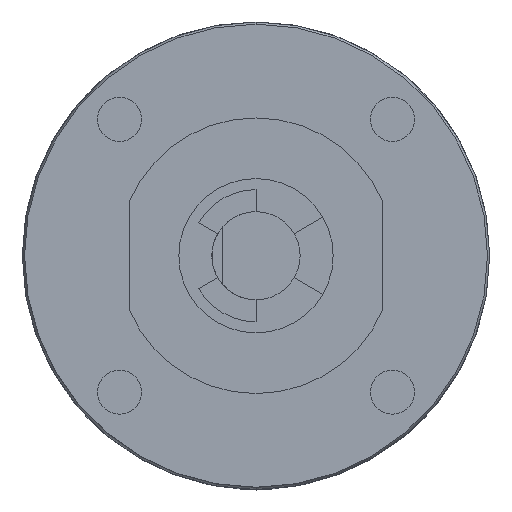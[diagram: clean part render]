
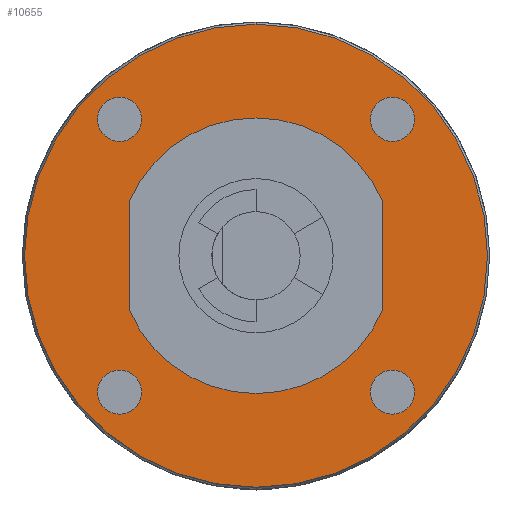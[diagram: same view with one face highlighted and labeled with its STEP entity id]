
A CAD part, front view. The second image highlights one B-rep face of the part: STEP entity #10655.
In plain terms, the highlighted planar face has unit normal (0, -1, 0) as drawn and (0, 1, 0) by its records, which use the part's own axes.
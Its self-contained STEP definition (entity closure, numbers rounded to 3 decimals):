
#9606=CARTESIAN_POINT('',(0.,45.9,0.));
#9607=DIRECTION('',(0.,1.,0.));
#9608=DIRECTION('',(0.,0.,1.));
#9609=AXIS2_PLACEMENT_3D('',#9606,#9607,#9608);
#9611=CARTESIAN_POINT('',(0.,45.9,0.));
#9612=DIRECTION('',(0.,1.,0.));
#9613=DIRECTION('',(0.,0.,-1.));
#9614=AXIS2_PLACEMENT_3D('',#9611,#9612,#9613);
#9616=CARTESIAN_POINT('',(-12.374,45.9,12.374));
#9617=DIRECTION('',(0.,-1.,0.));
#9618=DIRECTION('',(0.,0.,-1.));
#9619=AXIS2_PLACEMENT_3D('',#9616,#9617,#9618);
#9621=CARTESIAN_POINT('',(-12.374,45.9,12.374));
#9622=DIRECTION('',(0.,-1.,0.));
#9623=DIRECTION('',(0.,0.,1.));
#9624=AXIS2_PLACEMENT_3D('',#9621,#9622,#9623);
#9626=CARTESIAN_POINT('',(-12.374,45.9,-12.374));
#9627=DIRECTION('',(0.,-1.,0.));
#9628=DIRECTION('',(0.,0.,-1.));
#9629=AXIS2_PLACEMENT_3D('',#9626,#9627,#9628);
#9631=CARTESIAN_POINT('',(-12.374,45.9,-12.374));
#9632=DIRECTION('',(0.,-1.,0.));
#9633=DIRECTION('',(0.,0.,1.));
#9634=AXIS2_PLACEMENT_3D('',#9631,#9632,#9633);
#9636=CARTESIAN_POINT('',(12.374,45.9,-12.374));
#9637=DIRECTION('',(0.,-1.,0.));
#9638=DIRECTION('',(0.,0.,-1.));
#9639=AXIS2_PLACEMENT_3D('',#9636,#9637,#9638);
#9641=CARTESIAN_POINT('',(12.374,45.9,-12.374));
#9642=DIRECTION('',(0.,-1.,0.));
#9643=DIRECTION('',(0.,0.,1.));
#9644=AXIS2_PLACEMENT_3D('',#9641,#9642,#9643);
#9646=CARTESIAN_POINT('',(12.374,45.9,12.374));
#9647=DIRECTION('',(0.,-1.,0.));
#9648=DIRECTION('',(0.,0.,-1.));
#9649=AXIS2_PLACEMENT_3D('',#9646,#9647,#9648);
#9651=CARTESIAN_POINT('',(12.374,45.9,12.374));
#9652=DIRECTION('',(0.,-1.,0.));
#9653=DIRECTION('',(0.,0.,1.));
#9654=AXIS2_PLACEMENT_3D('',#9651,#9652,#9653);
#9656=DIRECTION('',(0.,0.,1.));
#9657=VECTOR('',#9656,9.798);
#9658=CARTESIAN_POINT('',(11.5,45.9,-4.899));
#9659=LINE('',#9658,#9657);
#9660=CARTESIAN_POINT('',(0.,45.9,0.));
#9661=DIRECTION('',(0.,-1.,0.));
#9662=DIRECTION('',(0.,0.,-1.));
#9663=AXIS2_PLACEMENT_3D('',#9660,#9661,#9662);
#9665=CARTESIAN_POINT('',(0.,45.9,0.));
#9666=DIRECTION('',(0.,-1.,0.));
#9667=DIRECTION('',(-0.92,0.,-0.392));
#9668=AXIS2_PLACEMENT_3D('',#9665,#9666,#9667);
#9670=DIRECTION('',(0.,0.,-1.));
#9671=VECTOR('',#9670,9.798);
#9672=CARTESIAN_POINT('',(-11.5,45.9,4.899));
#9673=LINE('',#9672,#9671);
#9674=CARTESIAN_POINT('',(0.,45.9,0.));
#9675=DIRECTION('',(0.,-1.,0.));
#9676=DIRECTION('',(0.,0.,1.));
#9677=AXIS2_PLACEMENT_3D('',#9674,#9675,#9676);
#9679=CARTESIAN_POINT('',(0.,45.9,0.));
#9680=DIRECTION('',(0.,-1.,0.));
#9681=DIRECTION('',(0.92,0.,0.392));
#9682=AXIS2_PLACEMENT_3D('',#9679,#9680,#9681);
#10396=CARTESIAN_POINT('',(-11.5,45.9,-4.899));
#10397=CARTESIAN_POINT('',(0.,45.9,-12.5));
#10398=VERTEX_POINT('',#10396);
#10399=VERTEX_POINT('',#10397);
#10438=CARTESIAN_POINT('',(-12.374,45.9,10.374));
#10439=CARTESIAN_POINT('',(-12.374,45.9,14.374));
#10440=VERTEX_POINT('',#10438);
#10441=VERTEX_POINT('',#10439);
#10468=CARTESIAN_POINT('',(11.5,45.9,-4.899));
#10469=VERTEX_POINT('',#10468);
#10482=CARTESIAN_POINT('',(-12.374,45.9,-10.374));
#10483=VERTEX_POINT('',#10482);
#10484=CARTESIAN_POINT('',(12.374,45.9,-14.374));
#10486=VERTEX_POINT('',#10484);
#10496=CARTESIAN_POINT('',(12.374,45.9,10.374));
#10497=CARTESIAN_POINT('',(12.374,45.9,14.374));
#10498=VERTEX_POINT('',#10496);
#10499=VERTEX_POINT('',#10497);
#10500=CARTESIAN_POINT('',(-11.5,45.9,4.899));
#10501=VERTEX_POINT('',#10500);
#10524=CARTESIAN_POINT('',(0.,45.9,-21.));
#10525=CARTESIAN_POINT('',(0.,45.9,21.));
#10526=VERTEX_POINT('',#10524);
#10527=VERTEX_POINT('',#10525);
#10528=CARTESIAN_POINT('',(0.,45.9,12.5));
#10529=VERTEX_POINT('',#10528);
#10530=CARTESIAN_POINT('',(11.5,45.9,4.899));
#10531=VERTEX_POINT('',#10530);
#10538=CARTESIAN_POINT('',(-12.374,45.9,-14.374));
#10539=VERTEX_POINT('',#10538);
#10550=CARTESIAN_POINT('',(12.374,45.9,-10.374));
#10551=VERTEX_POINT('',#10550);
#10608=CARTESIAN_POINT('',(0.,45.9,0.));
#10609=DIRECTION('',(0.,1.,0.));
#10610=DIRECTION('',(0.,0.,1.));
#10611=AXIS2_PLACEMENT_3D('',#10608,#10609,#10610);
#10612=PLANE('',#10611);
#10614=ORIENTED_EDGE('',*,*,#10613,.F.);
#10616=ORIENTED_EDGE('',*,*,#10615,.F.);
#10617=EDGE_LOOP('',(#10614,#10616));
#10618=FACE_OUTER_BOUND('',#10617,.F.);
#10620=ORIENTED_EDGE('',*,*,#10619,.F.);
#10622=ORIENTED_EDGE('',*,*,#10621,.F.);
#10623=EDGE_LOOP('',(#10620,#10622));
#10624=FACE_BOUND('',#10623,.F.);
#10625=ORIENTED_EDGE('',*,*,#10587,.F.);
#10626=ORIENTED_EDGE('',*,*,#10602,.F.);
#10627=EDGE_LOOP('',(#10625,#10626));
#10628=FACE_BOUND('',#10627,.F.);
#10630=ORIENTED_EDGE('',*,*,#10629,.F.);
#10632=ORIENTED_EDGE('',*,*,#10631,.F.);
#10633=EDGE_LOOP('',(#10630,#10632));
#10634=FACE_BOUND('',#10633,.F.);
#10636=ORIENTED_EDGE('',*,*,#10635,.F.);
#10638=ORIENTED_EDGE('',*,*,#10637,.F.);
#10639=EDGE_LOOP('',(#10636,#10638));
#10640=FACE_BOUND('',#10639,.F.);
#10642=ORIENTED_EDGE('',*,*,#10641,.F.);
#10644=ORIENTED_EDGE('',*,*,#10643,.F.);
#10646=ORIENTED_EDGE('',*,*,#10645,.F.);
#10648=ORIENTED_EDGE('',*,*,#10647,.F.);
#10650=ORIENTED_EDGE('',*,*,#10649,.F.);
#10652=ORIENTED_EDGE('',*,*,#10651,.F.);
#10653=EDGE_LOOP('',(#10642,#10644,#10646,#10648,#10650,#10652));
#10654=FACE_BOUND('',#10653,.F.);
#10655=ADVANCED_FACE('',(#10618,#10624,#10628,#10634,#10640,#10654),#10612,.T.);
#9610=CIRCLE('',#9609,21.);
#9615=CIRCLE('',#9614,21.);
#9620=CIRCLE('',#9619,2.);
#9625=CIRCLE('',#9624,2.);
#9630=CIRCLE('',#9629,2.);
#9635=CIRCLE('',#9634,2.);
#9640=CIRCLE('',#9639,2.);
#9645=CIRCLE('',#9644,2.);
#9650=CIRCLE('',#9649,2.);
#9655=CIRCLE('',#9654,2.);
#9664=CIRCLE('',#9663,12.5);
#9669=CIRCLE('',#9668,12.5);
#9678=CIRCLE('',#9677,12.5);
#9683=CIRCLE('',#9682,12.5);
#10587=EDGE_CURVE('',#10539,#10483,#9630,.T.);
#10602=EDGE_CURVE('',#10483,#10539,#9635,.T.);
#10613=EDGE_CURVE('',#10527,#10526,#9610,.T.);
#10615=EDGE_CURVE('',#10526,#10527,#9615,.T.);
#10619=EDGE_CURVE('',#10440,#10441,#9620,.T.);
#10621=EDGE_CURVE('',#10441,#10440,#9625,.T.);
#10629=EDGE_CURVE('',#10486,#10551,#9640,.T.);
#10631=EDGE_CURVE('',#10551,#10486,#9645,.T.);
#10635=EDGE_CURVE('',#10498,#10499,#9650,.T.);
#10637=EDGE_CURVE('',#10499,#10498,#9655,.T.);
#10641=EDGE_CURVE('',#10469,#10531,#9659,.T.);
#10643=EDGE_CURVE('',#10399,#10469,#9664,.T.);
#10645=EDGE_CURVE('',#10398,#10399,#9669,.T.);
#10647=EDGE_CURVE('',#10501,#10398,#9673,.T.);
#10649=EDGE_CURVE('',#10529,#10501,#9678,.T.);
#10651=EDGE_CURVE('',#10531,#10529,#9683,.T.);
